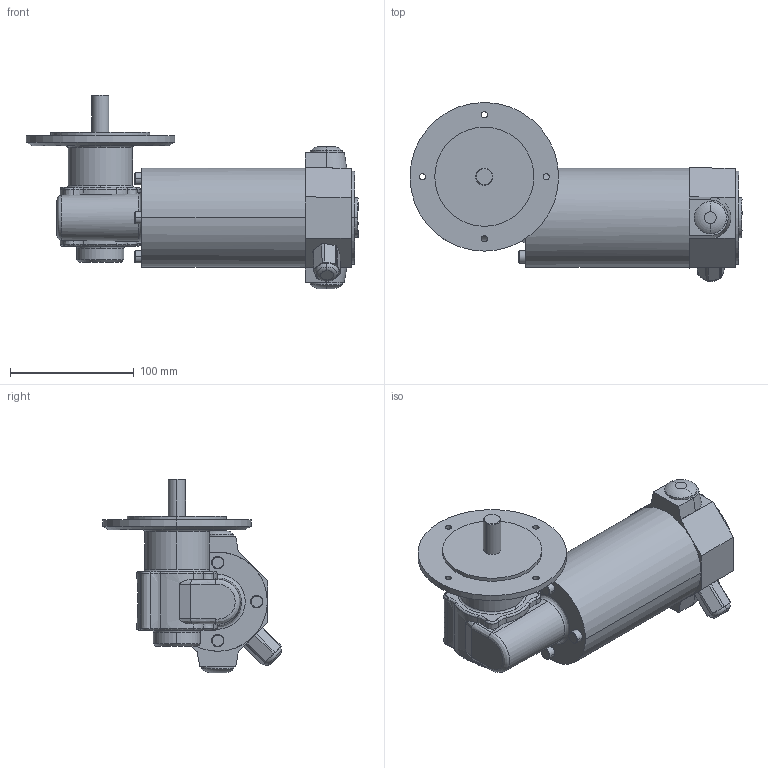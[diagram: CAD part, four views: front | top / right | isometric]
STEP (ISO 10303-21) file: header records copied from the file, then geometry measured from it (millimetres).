
FILE_DESCRIPTION(('OneSpaceDesigner STEP Export'),'2;1');
FILE_NAME('EPG13_GF130.stp','2008-07-10T 7:24:01',(''),(''),'OneSpace Designer STEP processor (Jan. 2003) for AP214(CD)(Solid Model)','OneSpace Designer 12.01D 09-Jul-2004 (C) CoCreate Software GmbH','');
FILE_SCHEMA(('AUTOMOTIVE_DESIGN_CC2 {1 2 10303 214 -1 1 5 1}'));
Length unit declared in the file: millimetre
Products named in the file (2): EPG13_GF130
Assembly tree (1 placements, depth 2):
  EPG13_GF130
    EPG13_GF130
Bounding box: 268 x 144.4 x 156.5 mm (x, y, z)
Volume: 1329321.1 mm3; surface area: 106799.9 mm2
Topology: 1 solids, 1 shells, 185 faces, 464 edges, 296 vertices
Faces by surface type: plane 49, cylinder 44, bspline 41, extrusion 25, torus 14, cone 12
Entity records: 15950 total; most frequent: CARTESIAN_POINT 12242, ORIENTED_EDGE 928, DIRECTION 488, EDGE_CURVE 464, VERTEX_POINT 296, EDGE_LOOP 208, FACE_OUTER_BOUND 185, ADVANCED_FACE 185
